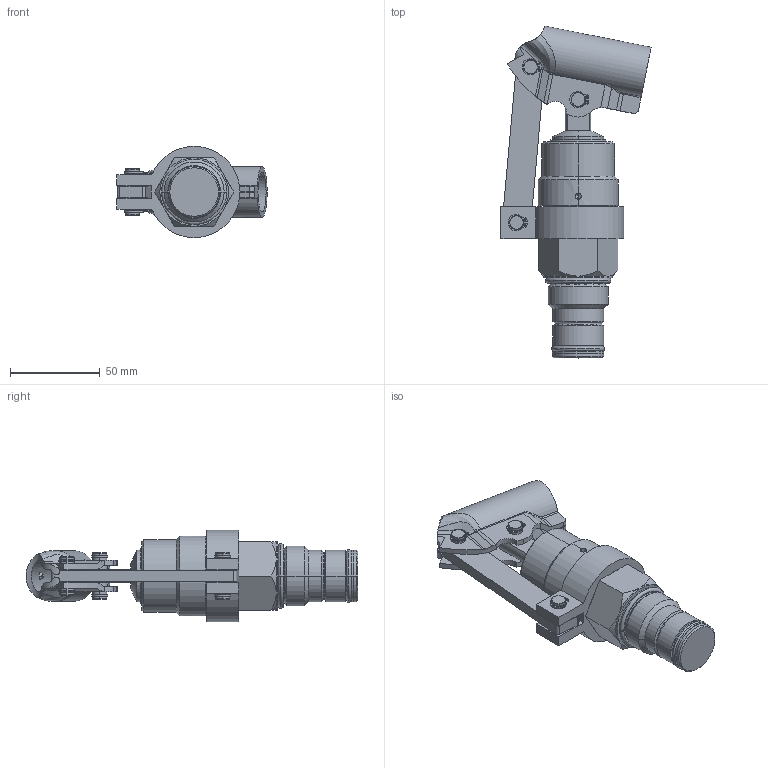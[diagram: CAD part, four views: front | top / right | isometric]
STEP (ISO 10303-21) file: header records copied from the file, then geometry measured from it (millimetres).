
FILE_DESCRIPTION((''),'2;1');
FILE_NAME('5471000_SW0001','2009-02-09T',('jcs'),(''),'PRO/ENGINEER BY PARAMETRIC TECHNOLOGY CORPORATION, 2008010','PRO/ENGINEER BY PARAMETRIC TECHNOLOGY CORPORATION, 2008010','');
FILE_SCHEMA(('CONFIG_CONTROL_DESIGN'));
Length unit declared in the file: inch
Products named in the file (1): 5471000_SW0001
Bounding box: 83.44 x 184.45 x 50.79 mm (x, y, z)
Volume: 185794.7 mm3; surface area: 51035.5 mm2
Topology: 8 solids, 8 shells, 469 faces, 1232 edges, 768 vertices
Faces by surface type: cylinder 228, plane 121, cone 48, bspline 44, revolution 16, torus 10, sphere 2
Entity records: 22179 total; most frequent: CARTESIAN_POINT 10584, ORIENTED_EDGE 2448, DIRECTION 2426, EDGE_CURVE 1224, AXIS2_PLACEMENT_3D 953, VERTEX_POINT 768, CIRCLE 544, EDGE_LOOP 528
